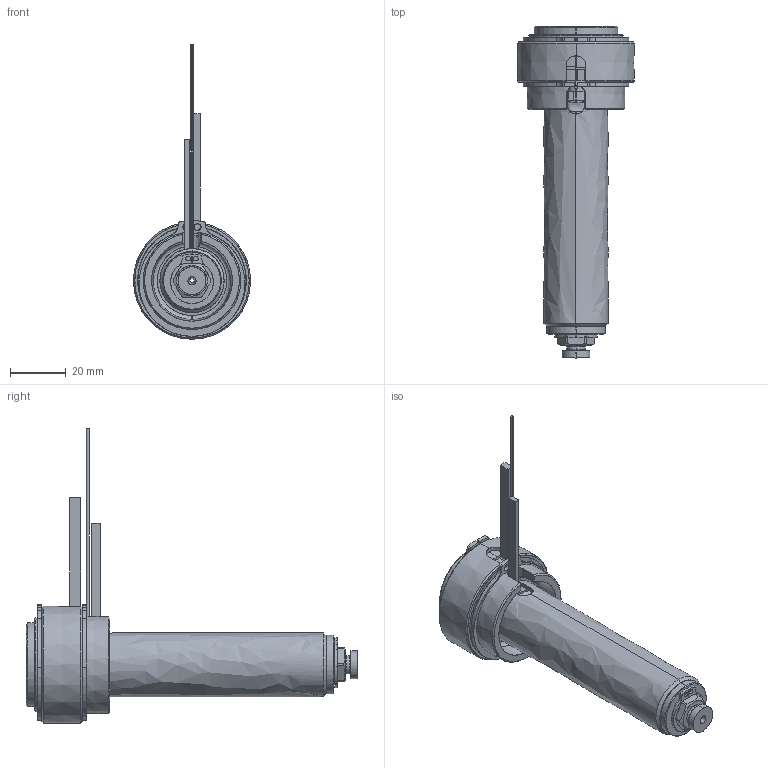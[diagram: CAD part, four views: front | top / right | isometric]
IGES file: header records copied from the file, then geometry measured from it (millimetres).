
Start section: SolidWorks IGES file using analytic representation for surfaces
Global section: file name: C:\Users\luca.EMPAD\Desktop\TEM\UGBE3502-M-A-5 [Ød-1.5 P-0 ØC-6.0].IGS; native system: SolidWorks 2012; preprocessor: SolidWorks 2012; author: luca; date: 120330.135627; units: millimetre
Bounding box: 42 x 119 x 105.6 mm (x, y, z)
Surface area: 27630.5 mm2 (no closed solid volume)
Topology: 0 solids, 0 shells, 180 faces, 3166 edges, 3166 vertices
Faces by surface type: revolution 114, bspline 66
